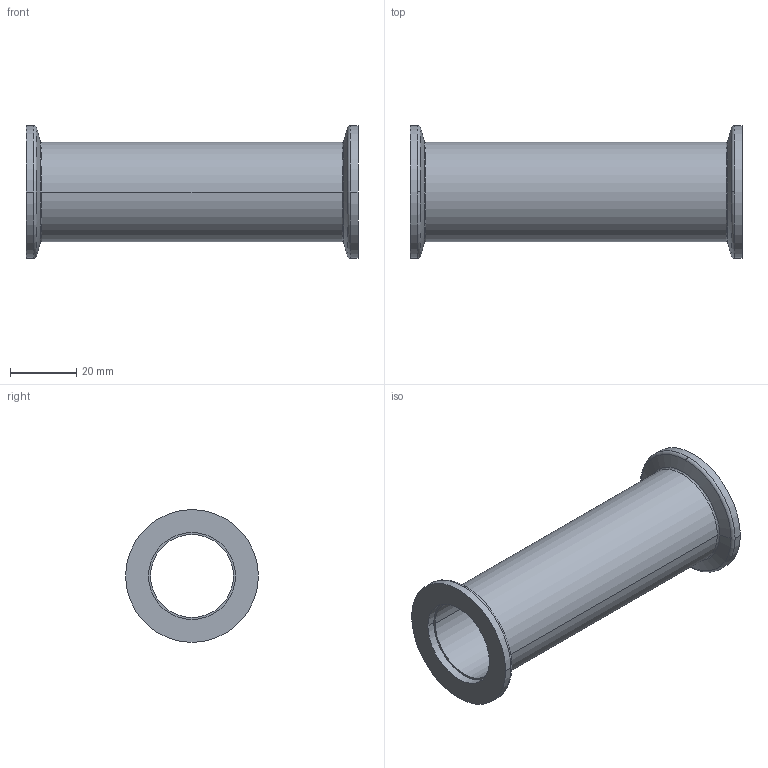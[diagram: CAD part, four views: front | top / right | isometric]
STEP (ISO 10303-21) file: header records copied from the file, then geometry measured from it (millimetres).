
FILE_DESCRIPTION((''),'2;1');
FILE_NAME('N:\Transfer\Berger Martin\Leybold\C13\18481.stp','2005-02-08T10:08:07',('PESO'),(''),'Autodesk Inventor 9','Autodesk Inventor 9','');
FILE_SCHEMA(('AUTOMOTIVE_DESIGN { 1 0 10303 214 1 1 1 1 }'));
Length unit declared in the file: millimetre
Products named in the file (1): 18481
Bounding box: 100 x 40 x 40 mm (x, y, z)
Volume: 25336.9 mm3; surface area: 19820.7 mm2
Topology: 1 solids, 1 shells, 28 faces, 72 edges, 48 vertices
Faces by surface type: cylinder 12, torus 4, cone 4, bspline 4, plane 4
Entity records: 1079 total; most frequent: CARTESIAN_POINT 325, DIRECTION 178, ORIENTED_EDGE 144, AXIS2_PLACEMENT_3D 81, EDGE_CURVE 72, CIRCLE 56, VERTEX_POINT 48, EDGE_LOOP 32
